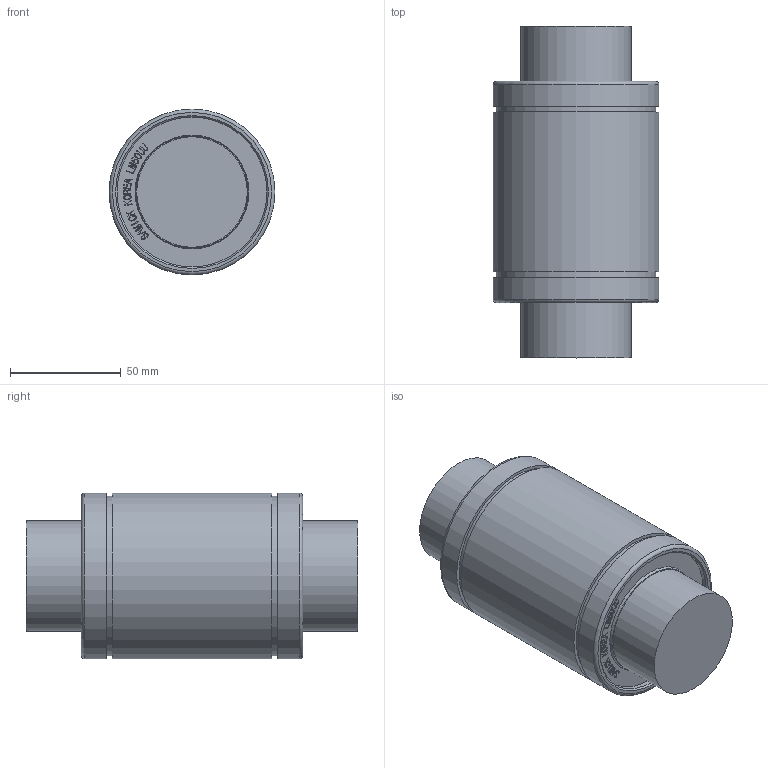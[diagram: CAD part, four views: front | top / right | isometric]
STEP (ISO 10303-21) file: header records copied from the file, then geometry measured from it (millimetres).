
FILE_DESCRIPTION(/* description */ (''),/* implementation_level */ '2;1');
FILE_NAME(/* name */ 'W:\(01) 2024년 홈페이지 CAD파일 최신화\LME\IPT\LME50UU.stp',/* time_stamp */ '2025-01-25T08:56:21+09:00',/* author */ ('서우현'),/* organization */ (''),/* preprocessor_version */ 'ST-DEVELOPER v17.2',/* originating_system */ 'Autodesk Inventor 2019',/* authorisation */ '');
FILE_SCHEMA (('AUTOMOTIVE_DESIGN { 1 0 10303 214 3 1 1 }'));
Length unit declared in the file: millimetre
Products named in the file (1): LM5
Bounding box: 75 x 150 x 75 mm (x, y, z)
Volume: 529217.3 mm3; surface area: 43078.5 mm2
Topology: 1 solids, 1 shells, 841 faces, 2377 edges, 1592 vertices
Faces by surface type: bspline 600, plane 226, cylinder 9, cone 4, torus 2
Full cylindrical faces by diameter (mm): 50 x2, 67.7 x2, 72 x2, 75 x3
Entity records: 28775 total; most frequent: CARTESIAN_POINT 10211, ORIENTED_EDGE 4754, EDGE_CURVE 2377, DIRECTION 1715, VERTEX_POINT 1592, B_SPLINE_CURVE_WITH_KNOTS 1200, LINE 1123, VECTOR 1123
